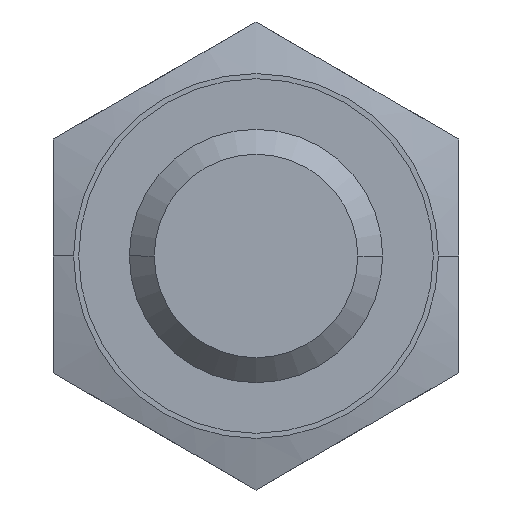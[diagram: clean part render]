
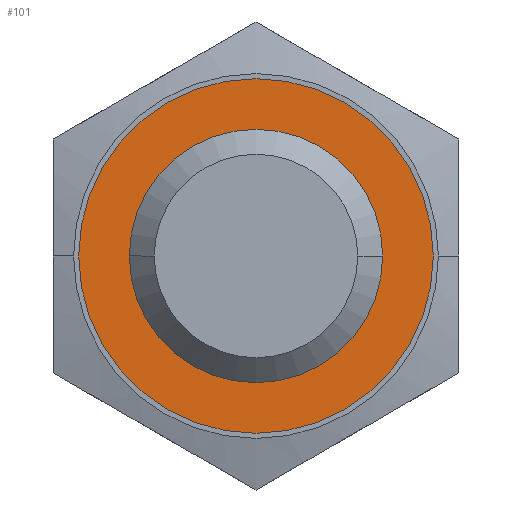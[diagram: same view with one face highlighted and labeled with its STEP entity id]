
A CAD part, front view. The second image highlights one B-rep face of the part: STEP entity #101.
In plain terms, the highlighted planar face has unit normal (0, -1, 0).
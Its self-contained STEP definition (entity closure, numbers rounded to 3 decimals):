
#101 = ADVANCED_FACE( '', ( #167, #168 ), #169, .T. );
#167 = FACE_OUTER_BOUND( '', #250, .T. );
#168 = FACE_BOUND( '', #251, .T. );
#169 = PLANE( '', #252 );
#250 = EDGE_LOOP( '', ( #468, #469 ) );
#251 = EDGE_LOOP( '', ( #470, #471 ) );
#252 = AXIS2_PLACEMENT_3D( '', #472, #473, #474 );
#468 = ORIENTED_EDGE( '', *, *, #591, .F. );
#469 = ORIENTED_EDGE( '', *, *, #633, .F. );
#470 = ORIENTED_EDGE( '', *, *, #597, .T. );
#471 = ORIENTED_EDGE( '', *, *, #632, .T. );
#472 = CARTESIAN_POINT( '', ( 2.755, 0., 0. ) );
#473 = DIRECTION( '', ( 0., -1., 0. ) );
#474 = DIRECTION( '', ( -1., 0., 0. ) );
#591 = EDGE_CURVE( '', #699, #702, #703, .T. );
#597 = EDGE_CURVE( '', #708, #712, #714, .T. );
#632 = EDGE_CURVE( '', #712, #708, #764, .T. );
#633 = EDGE_CURVE( '', #702, #699, #765, .T. );
#699 = VERTEX_POINT( '', #879 );
#702 = VERTEX_POINT( '', #883 );
#703 = CIRCLE( '', #884, 3.5 );
#708 = VERTEX_POINT( '', #890 );
#712 = VERTEX_POINT( '', #895 );
#714 = CIRCLE( '', #898, 2.01 );
#764 = CIRCLE( '', #1102, 2.01 );
#765 = CIRCLE( '', #1103, 3.5 );
#879 = CARTESIAN_POINT( '', ( 3.5, 0., 0. ) );
#883 = CARTESIAN_POINT( '', ( -3.5, 0., 0. ) );
#884 = AXIS2_PLACEMENT_3D( '', #1163, #1164, #1165 );
#890 = CARTESIAN_POINT( '', ( 2.01, 0., 0. ) );
#895 = CARTESIAN_POINT( '', ( -2.01, 0., 0. ) );
#898 = AXIS2_PLACEMENT_3D( '', #1175, #1176, #1177 );
#1102 = AXIS2_PLACEMENT_3D( '', #1212, #1213, #1214 );
#1103 = AXIS2_PLACEMENT_3D( '', #1215, #1216, #1217 );
#1163 = CARTESIAN_POINT( '', ( 0., 0., 0. ) );
#1164 = DIRECTION( '', ( 0., 1., 0. ) );
#1165 = DIRECTION( '', ( 1., 0., 0. ) );
#1175 = CARTESIAN_POINT( '', ( 0., 0., 0. ) );
#1176 = DIRECTION( '', ( 0., 1., 0. ) );
#1177 = DIRECTION( '', ( 1., 0., 0. ) );
#1212 = CARTESIAN_POINT( '', ( 0., 0., 0. ) );
#1213 = DIRECTION( '', ( 0., 1., 0. ) );
#1214 = DIRECTION( '', ( 1., 0., 0. ) );
#1215 = CARTESIAN_POINT( '', ( 0., 0., 0. ) );
#1216 = DIRECTION( '', ( 0., 1., 0. ) );
#1217 = DIRECTION( '', ( 1., 0., 0. ) );
